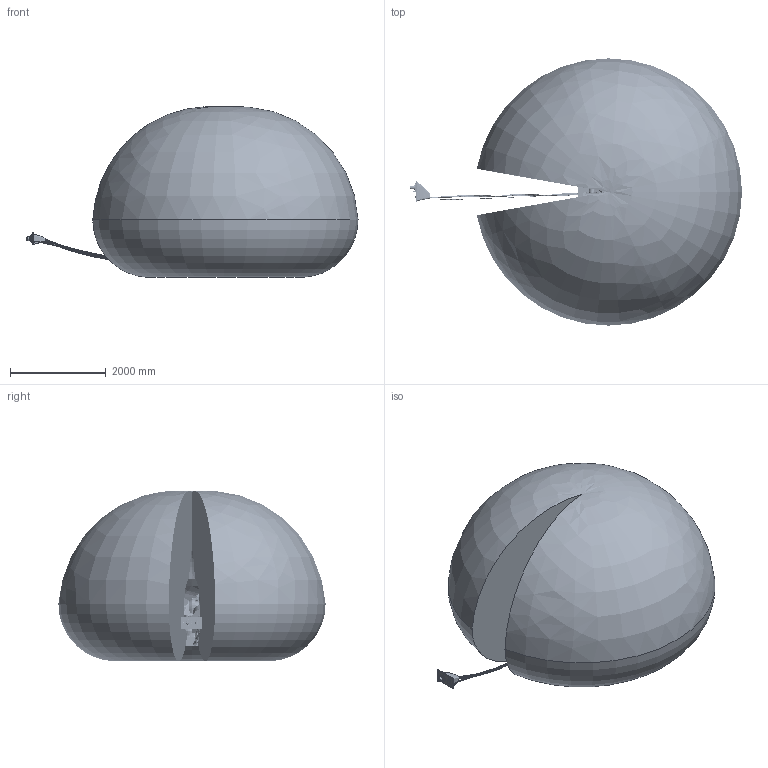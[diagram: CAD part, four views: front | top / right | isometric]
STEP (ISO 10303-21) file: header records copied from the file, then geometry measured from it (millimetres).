
FILE_DESCRIPTION(/* description */ (''),/* implementation_level */ '2;1');
FILE_NAME(/* name */ 'E:\组装完成的图纸\IRB 6790\IRB 6790-205-2.8\IRB 6790-205-2.8(带工作域).stp',/* time_stamp */ '2023-10-31T15:53:25+08:00',/* author */ ('Administrator'),/* organization */ (''),/* preprocessor_version */ 'ST-DEVELOPER v16.5',/* originating_system */ 'Autodesk Inventor 2017',/* authorisation */ '');
FILE_SCHEMA (('AUTOMOTIVE_DESIGN { 1 0 10303 214 3 1 1 }'));
Products named in the file (18): 部件3; IRB6700'6790_205-280_IRC5_rev00_LOGO1_CAD; IRB6700'6790_205-280_IRC5_rev00_LOGO2_CAD; IRB6700'6790_205-280_IRC5_rev00_LOGO3_CAD; IRB6700'6790_205-280_IRC5_rev01_BASE_CAD; IRB6700'6790_205-280_IRC5_rev01_LINK02m_CABLE; IRB6700'6790_205-280_IRC5_rev02_LINK01m_CABLE; IRB6700'6790_205-280_IRC5_rev02_LINK03m_CABLE; IRB6700'6790_205-280_IRC5_rev02_LINK04_CAD; IRB6700'6790_205-280_IRC5_rev02_LINK06_CAD; IRB6700'6790_205-280_IRC5_rev03_LINK02_CAD; IRB6700'6790_205-280_IRC5_rev03_ROD_CAD; IRB6700'6790_205-280_IRC5_rev04_LINK05_CAD; IRB6700'6790_205-280_IRC5_rev05_LINK03_CAD; IRB6700'6790_205-280_IRC5_rev06_CYLINDER_CAD; IRB6700'6790_205-280_IRC5_rev06_LINK01_CAD; IRB6700'6790_280_Working_space; IRB6790_IRC5_rev_00_harness
Assembly tree (1 placements, depth 2):
  部件3
    IRB6790_IRC5_rev_00_harness
  IRB6700'6790_205-280_IRC5_rev00_LOGO1_CAD
  IRB6700'6790_205-280_IRC5_rev00_LOGO2_CAD
  IRB6700'6790_205-280_IRC5_rev00_LOGO3_CAD
  IRB6700'6790_205-280_IRC5_rev01_BASE_CAD
Bounding box: 6942.66 x 5588 x 3563.09 mm (x, y, z)
Volume: 57017830264.2 mm3; surface area: 112859848 mm2
Topology: 20 solids, 22 shells, 6929 faces, 18194 edges, 11670 vertices
Faces by surface type: plane 3825, cylinder 1591, cone 678, bspline 630, torus 159, sphere 46
Full cylindrical faces by diameter (mm): 3 x4, 5 x23, 5.5 x3, 6 x31, 6.4 x1, 6.5 x6, 6.6 x9, 6.8 x12, 6.9 x1, 7 x16, 7.1 x2, 7.4 x2, 7.5 x8, 8 x5, 8.1 x2, 8.3 x4, 8.5 x4, 8.6 x4, 8.8 x4, 9 x5, 10 x5, 10.08 x2, 10.2 x37, 11.05 x4, 11.5 x4, 11.8 x8, 12 x9, 12.5 x6, 13 x3, 13.8 x3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
Entity records: 335943 total; most frequent: CARTESIAN_POINT 170198, ORIENTED_EDGE 34424, DIRECTION 32210, EDGE_CURVE 17212, VERTEX_POINT 11415, AXIS2_PLACEMENT_3D 11209, LINE 9792, VECTOR 9792
